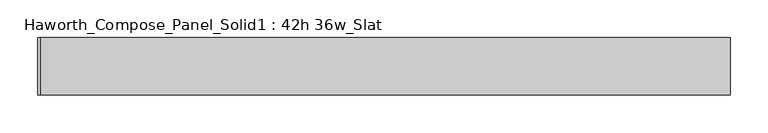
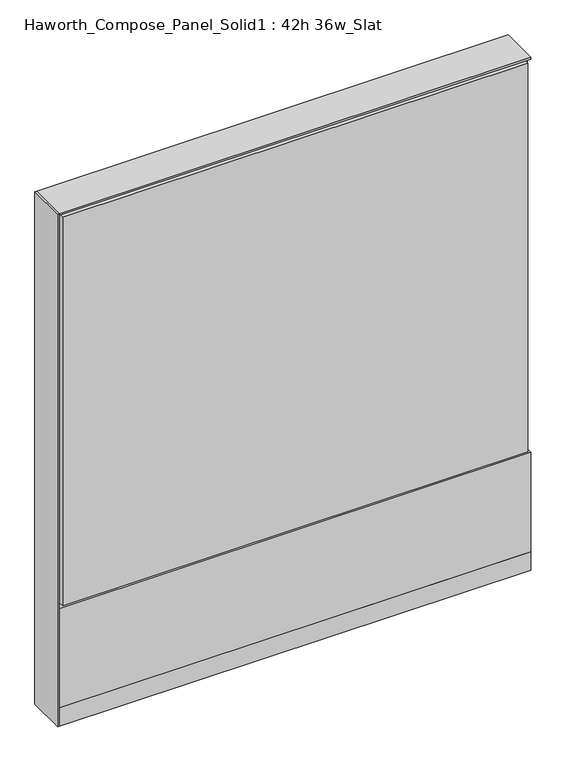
"""IFC4 building model written with IfcOpenShell, lengths in millimetres: furniture geometry, Haworth_Compose_Panel_Solid1 : 42h 36w_Slat."""

from ifc_helpers import new_model, si_unit, point, frame, frame_2d, origin, origin_with_axes, place, context, project, spatial, polyline, circle_curve, trimmed, segment, composite_curve, outline, extrude, source, transform, mapped, element, save


def haworth_compose_panel_solid1_42h_36w_slat_9ff56704(model_context):
    return source(origin(), model_context, "Body", "SweptSolid", [
        extrude(outline(composite_curve([segment(trimmed(circle_curve(frame_2d((-378.5597098, 0.0)), 12.7), [point((-391.2597098, 0.0))], [point((-365.8597098, 0.0))], False, "CARTESIAN"), True, "CONTINUOUS"), segment(trimmed(circle_curve(frame_2d((-378.5597098, 0.0)), 12.7), [point((-365.8597098, 0.0))], [point((-391.2597098, 0.0))], False, "CARTESIAN"), True, "CONTINUOUS")], self_intersect=False)), origin_with_axes(), (0.0, 0.0, 1.0), 12.7),
        extrude(outline(composite_curve([segment(trimmed(circle_curve(frame_2d((383.4402902, 0.0)), 12.7), [point((370.7402902, 0.0))], [point((396.1402902, 0.0))], False, "CARTESIAN"), True, "CONTINUOUS"), segment(trimmed(circle_curve(frame_2d((383.4402902, 0.0)), 12.7), [point((396.1402902, 0.0))], [point((370.7402902, 0.0))], False, "CARTESIAN"), True, "CONTINUOUS")], self_intersect=False)), origin_with_axes(), (0.0, 0.0, 1.0), 12.7),
        extrude(outline(polyline([(-457.9347098, 38.1), (-454.7597098, 38.1), (-454.7597098, -38.1), (-457.9347098, -38.1), (-457.9347098, 38.1)])), frame((0.0, 0.0, 12.7), z_axis=(0.0, 0.0, 1.0), x_axis=(1.0, 0.0, 0.0)), (0.0, 0.0, 1.0), 1050.925),
        extrude(outline(polyline([(453.2902902, 38.1), (453.2902902, 25.4), (-448.4097098, 25.4), (-448.4097098, 38.1), (453.2902902, 38.1)])), frame((0.0, 0.0, 854.075), z_axis=(0.0, 0.0, 1.0), x_axis=(1.0, 0.0, 0.0)), (0.0, 0.0, 1.0), 200.025),
        extrude(outline(polyline([(453.2902902, 38.1), (453.2902902, 25.4), (-448.4097098, 25.4), (-448.4097098, 38.1), (453.2902902, 38.1)])), frame((0.0, 0.0, 257.175), z_axis=(0.0, 0.0, 1.0), x_axis=(1.0, 0.0, 0.0)), (0.0, 0.0, 1.0), 593.725),
        extrude(outline(polyline([(459.6402902, 38.1), (459.6402902, 25.4), (-454.7597098, 25.4), (-454.7597098, 38.1), (459.6402902, 38.1)])), frame((0.0, 0.0, 50.8), z_axis=(0.0, 0.0, 1.0), x_axis=(1.0, 0.0, 0.0)), (0.0, 0.0, 1.0), 203.2),
        extrude(outline(polyline([(459.6402902, -38.1), (-454.7597098, -38.1), (-454.7597098, -25.4), (459.6402902, -25.4), (459.6402902, -38.1)])), frame((0.0, 0.0, 50.8), z_axis=(0.0, 0.0, 1.0), x_axis=(1.0, 0.0, 0.0)), (0.0, 0.0, 1.0), 203.2),
        extrude(outline(polyline([(453.2902902, -38.1), (-448.4097098, -38.1), (-448.4097098, -25.4), (453.2902902, -25.4), (453.2902902, -38.1)])), frame((0.0, 0.0, 257.175), z_axis=(0.0, 0.0, 1.0), x_axis=(1.0, 0.0, 0.0)), (0.0, 0.0, 1.0), 796.925),
        extrude(outline(polyline([(459.6402902, 25.4), (459.6402902, -25.4), (-454.7597098, -25.4), (-454.7597098, 25.4), (459.6402902, 25.4)])), frame((0.0, 0.0, 12.7), z_axis=(0.0, 0.0, 1.0), x_axis=(1.0, 0.0, 0.0)), (0.0, 0.0, 1.0), 1047.75),
        extrude(outline(polyline([(-454.7597098, -38.1), (-454.7597098, 38.1), (459.6402902, 38.1), (459.6402902, -38.1), (-454.7597098, -38.1)])), frame((0.0, 0.0, 12.7), z_axis=(0.0, 0.0, 1.0), x_axis=(1.0, 0.0, 0.0)), (0.0, 0.0, 1.0), 38.1),
        extrude(outline(polyline([(-454.7597098, -38.1), (-454.7597098, 38.1), (459.6402902, 38.1), (459.6402902, -38.1), (-454.7597098, -38.1)])), frame((0.0, 0.0, 1060.45), z_axis=(0.0, 0.0, 1.0), x_axis=(1.0, 0.0, 0.0)), (0.0, 0.0, 1.0), 3.175),
    ])


if __name__ == "__main__":
    model = new_model("IFC4")
    model_context = context("Model", 3, world=origin())
    ifc_project = project(units=[si_unit("LENGTHUNIT", "METRE", prefix="MILLI")], contexts=[model_context])
    site = spatial("IfcSite", under=ifc_project)
    building = spatial("IfcBuilding", under=site)
    placement = place(None, origin())
    haworth_compose_panel_solid1_42h_36w_slat_shape = haworth_compose_panel_solid1_42h_36w_slat_9ff56704(model_context)
    element("IfcFurniture", 1, ObjectType="Haworth_Compose_Panel_Solid1 : 42h 36w_Slat", at=placement, inside=building, context=model_context, shape_type="MappedRepresentation", body=[
        mapped(haworth_compose_panel_solid1_42h_36w_slat_shape, transform((0.0, 0.0, 0.0), x_axis=(1.0, 0.0, 0.0), y_axis=(0.0, 1.0, 0.0), z_axis=(0.0, 0.0, 1.0))),
    ])
    save(model, "model.ifc")
